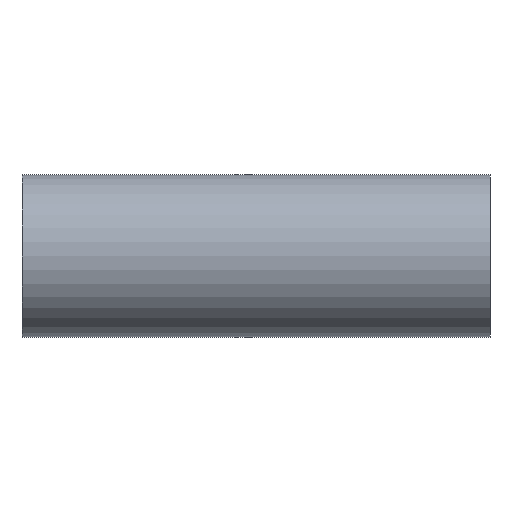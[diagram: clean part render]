
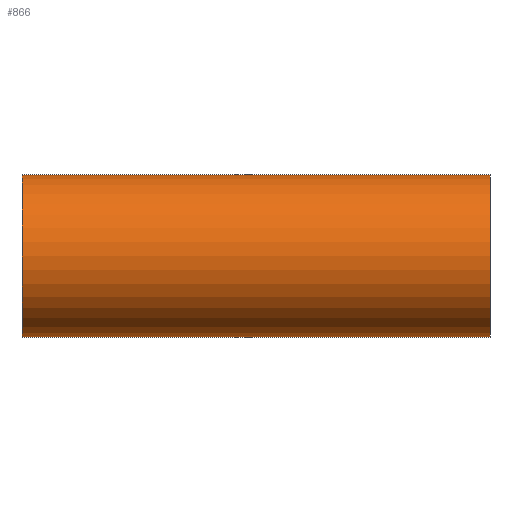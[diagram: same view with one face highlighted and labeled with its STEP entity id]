
A CAD part, front view. The second image highlights one B-rep face of the part: STEP entity #866.
In plain terms, the highlighted cylindrical face has radius 25.4 mm (diameter 50.8 mm), a partial arc.
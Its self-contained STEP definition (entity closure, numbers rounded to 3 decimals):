
#10 = LINE ( 'NONE', #296, #29 ) ;
#26 = VECTOR ( 'NONE', #81, 1000. ) ;
#29 = VECTOR ( 'NONE', #1068, 1000. ) ;
#62 = LINE ( 'NONE', #479, #26 ) ;
#81 = DIRECTION ( 'NONE',  ( 1., 0., 0. ) ) ;
#214 = CARTESIAN_POINT ( 'NONE',  ( 73., 0., -25.4 ) ) ;
#223 = DIRECTION ( 'NONE',  ( 0., 0., -1. ) ) ;
#296 = CARTESIAN_POINT ( 'NONE',  ( -73., 0., -25.4 ) ) ;
#324 = CARTESIAN_POINT ( 'NONE',  ( -73., 0., 0. ) ) ;
#336 = EDGE_CURVE ( 'NONE', #1209, #1331, #62, .T. ) ;
#339 = DIRECTION ( 'NONE',  ( 1., 0., 0. ) ) ;
#345 = EDGE_CURVE ( 'NONE', #1150, #950, #10, .T. ) ;
#349 = DIRECTION ( 'NONE',  ( 0., 0., -1. ) ) ;
#368 = AXIS2_PLACEMENT_3D ( 'NONE', #324, #339, #349 ) ;
#377 = CARTESIAN_POINT ( 'NONE',  ( -73., 0., -25.4 ) ) ;
#389 = AXIS2_PLACEMENT_3D ( 'NONE', #1051, #1070, #1048 ) ;
#463 = ORIENTED_EDGE ( 'NONE', *, *, #336, .F. ) ;
#479 = CARTESIAN_POINT ( 'NONE',  ( -73., 0., 25.4 ) ) ;
#514 = CYLINDRICAL_SURFACE ( 'NONE', #389, 25.4 ) ;
#522 = ORIENTED_EDGE ( 'NONE', *, *, #1130, .T. ) ;
#553 = FACE_OUTER_BOUND ( 'NONE', #1273, .T. ) ;
#600 = ORIENTED_EDGE ( 'NONE', *, *, #345, .T. ) ;
#688 = CIRCLE ( 'NONE', #693, 25.4 ) ;
#693 = AXIS2_PLACEMENT_3D ( 'NONE', #1282, #1294, #223 ) ;
#735 = CARTESIAN_POINT ( 'NONE',  ( -73., 0., 25.4 ) ) ;
#746 = ORIENTED_EDGE ( 'NONE', *, *, #929, .T. ) ;
#866 = ADVANCED_FACE ( 'NONE', ( #553 ), #514, .T. ) ;
#929 = EDGE_CURVE ( 'NONE', #950, #1331, #688, .T. ) ;
#950 = VERTEX_POINT ( 'NONE', #214 ) ;
#953 = CIRCLE ( 'NONE', #368, 25.4 ) ;
#1048 = DIRECTION ( 'NONE',  ( 0., 0., -1. ) ) ;
#1051 = CARTESIAN_POINT ( 'NONE',  ( -73., 0., 0. ) ) ;
#1066 = CARTESIAN_POINT ( 'NONE',  ( 73., 0., 25.4 ) ) ;
#1068 = DIRECTION ( 'NONE',  ( 1., 0., 0. ) ) ;
#1070 = DIRECTION ( 'NONE',  ( 1., 0., 0. ) ) ;
#1130 = EDGE_CURVE ( 'NONE', #1209, #1150, #953, .T. ) ;
#1150 = VERTEX_POINT ( 'NONE', #377 ) ;
#1209 = VERTEX_POINT ( 'NONE', #735 ) ;
#1273 = EDGE_LOOP ( 'NONE', ( #463, #522, #600, #746 ) ) ;
#1282 = CARTESIAN_POINT ( 'NONE',  ( 73., 0., 0. ) ) ;
#1294 = DIRECTION ( 'NONE',  ( -1., 0., 0. ) ) ;
#1331 = VERTEX_POINT ( 'NONE', #1066 ) ;
